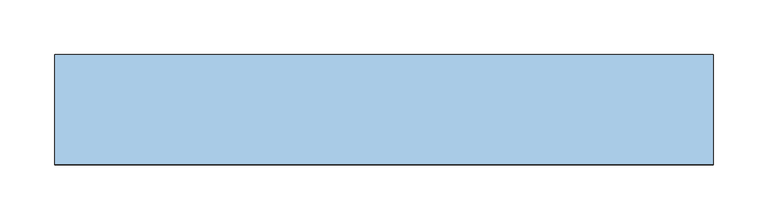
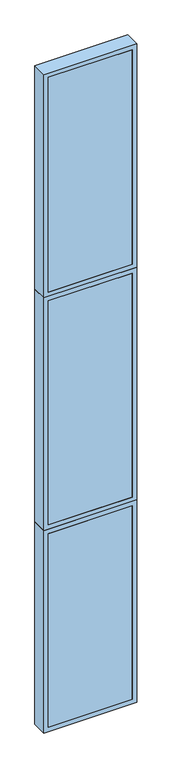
"""IFC4 building model written with IfcOpenShell, lengths in millimetres: window geometry, TRP_CP_ARC_FI_V1 : AL_P03_60."""

import ifcopenshell
import ifcopenshell.guid

model = None  # the IFC model being written
_history = None  # IfcOwnerHistory: only IFC2X3 demands one
_inside = {}  # id of a spatial element -> (the spatial element, [elements in it])
_under = {}  # id of a project, library or spatial element -> (it, [spatial elements below it])
_declared = {}  # id of a project -> (the project, [libraries it declares])
_typed = {}  # id of a type object -> (the type object, [elements of that type])
_made_of = {}  # id of a material, layer set ... -> (it, [elements and type objects made of it])


def new_model(schema):
    """Start an empty IFC model of exactly this schema.

    Asked for "IFC4X3", IfcOpenShell would pick the latest addendum, in which some entities
    have other attributes; the version numbers below select the first issue.
    IFC2X3 requires an IfcOwnerHistory on every rooted entity: one is made here for all.
    """
    global model, _history
    if schema == "IFC4X3":
        model = ifcopenshell.file(schema_version=(4, 3, 0, 0))
    else:
        model = ifcopenshell.file(schema=schema)
    _inside.clear()
    _under.clear()
    _declared.clear()
    _typed.clear()
    _made_of.clear()
    _history = None
    if model.schema == "IFC2X3":
        org = make("IfcOrganization", Name="unknown")
        user = make(
            "IfcPersonAndOrganization",
            ThePerson=make("IfcPerson", FamilyName="unknown"),
            TheOrganization=org,
        )
        app = make(
            "IfcApplication",
            ApplicationDeveloper=org,
            Version="unknown",
            ApplicationFullName="unknown",
            ApplicationIdentifier="unknown",
        )
        _history = make(
            "IfcOwnerHistory",
            OwningUser=user,
            OwningApplication=app,
            ChangeAction="ADDED",
            CreationDate=0,
        )
    return model


def make(cls, **values):
    """One entity of the class cls with the attributes given. An attribute that is None is left unset."""
    return model.create_entity(
        cls, **{name: value for name, value in values.items() if value is not None}
    )


def rooted(cls, **values):
    """An entity with a GlobalId (a new one), such as an element, a storey or a relation."""
    return make(cls, GlobalId=ifcopenshell.guid.new(), OwnerHistory=_history, **values)


def si_unit(unit_type, name, prefix=None):
    """IfcSIUnit, for example si_unit("LENGTHUNIT", "METRE", prefix="MILLI")."""
    return make("IfcSIUnit", UnitType=unit_type, Prefix=prefix, Name=name)


def assignment(units):
    """IfcUnitAssignment: the units of a project."""
    return None if units is None else make("IfcUnitAssignment", Units=units)


def point(xyz):
    """IfcCartesianPoint."""
    return None if xyz is None else make("IfcCartesianPoint", Coordinates=xyz)


def direction(xyz):
    """IfcDirection."""
    return None if xyz is None else make("IfcDirection", DirectionRatios=xyz)


def frame(location, z_axis=None, x_axis=None):
    """IfcAxis2Placement3D, a coordinate frame: its origin and axes. An axis left out is left unset."""
    return make(
        "IfcAxis2Placement3D",
        Location=point(location),
        Axis=direction(z_axis),
        RefDirection=direction(x_axis),
    )


def origin():
    """The frame at (0, 0, 0) with its axes left unset."""
    return frame((0.0, 0.0, 0.0))


def place(relative_to, where):
    """IfcLocalPlacement: puts the frame where relative to a parent placement (None: the world)."""
    return make(
        "IfcLocalPlacement", PlacementRelTo=relative_to, RelativePlacement=where
    )


def context(
    kind, dimensions, precision=None, world=None, true_north=None, identifier=None
):
    """IfcGeometricRepresentationContext, for example the 3D "Model" context."""
    return make(
        "IfcGeometricRepresentationContext",
        ContextIdentifier=identifier,
        ContextType=kind,
        CoordinateSpaceDimension=dimensions,
        Precision=precision,
        WorldCoordinateSystem=world,
        TrueNorth=true_north,
    )


def project(units=None, contexts=None):
    """IfcProject with its units and contexts."""
    return rooted(
        "IfcProject",
        Name="project",
        RepresentationContexts=contexts,
        UnitsInContext=assignment(units),
    )


def spatial(cls, under=None, at=None, **own):
    """A site, building, storey or space (cls), placed at a placement, below another one or the project."""
    s = rooted(cls, ObjectPlacement=at, **own)
    if under is not None:
        _under.setdefault(under.id(), (under, []))[1].append(s)
    return s


def polyline(points):
    """IfcPolyline through the points."""
    return make("IfcPolyline", Points=[point(p) for p in points])


def outline(outer, holes=None, kind="AREA"):
    """IfcArbitraryClosedProfileDef: a profile drawn as a closed curve; with holes, ...WithVoids."""
    if holes is None:
        return make("IfcArbitraryClosedProfileDef", ProfileType=kind, OuterCurve=outer)
    return make(
        "IfcArbitraryProfileDefWithVoids",
        ProfileType=kind,
        OuterCurve=outer,
        InnerCurves=holes,
    )


def extrude(swept, where, along, depth):
    """IfcExtrudedAreaSolid: the profile swept, set in the frame where, extruded along a direction by depth."""
    return make(
        "IfcExtrudedAreaSolid",
        SweptArea=swept,
        Position=where,
        ExtrudedDirection=direction(along),
        Depth=depth,
    )


def shape(context_of_items, identifier, shape_type, items):
    """IfcShapeRepresentation: the items that make up one representation, for example the "Body"."""
    return make(
        "IfcShapeRepresentation",
        ContextOfItems=context_of_items,
        RepresentationIdentifier=identifier,
        RepresentationType=shape_type,
        Items=items,
    )


def source(mapping_origin, context_of_items, identifier, shape_type, items):
    """IfcRepresentationMap: a shape defined once, which mapped items show again and again."""
    return make(
        "IfcRepresentationMap",
        MappingOrigin=mapping_origin,
        MappedRepresentation=shape(context_of_items, identifier, shape_type, items),
    )


def transform(
    local_origin,
    x_axis=None,
    y_axis=None,
    z_axis=None,
    scale=None,
    scale2=None,
    scale3=None,
    uniform=True,
):
    """IfcCartesianTransformationOperator3D, or its non-uniform kind. x_axis, y_axis, z_axis: its Axis1, 2, 3."""
    if uniform:
        return make(
            "IfcCartesianTransformationOperator3D",
            Axis1=direction(x_axis),
            Axis2=direction(y_axis),
            LocalOrigin=point(local_origin),
            Scale=scale,
            Axis3=direction(z_axis),
        )
    return make(
        "IfcCartesianTransformationOperator3DnonUniform",
        Axis1=direction(x_axis),
        Axis2=direction(y_axis),
        LocalOrigin=point(local_origin),
        Scale=scale,
        Axis3=direction(z_axis),
        Scale2=scale2,
        Scale3=scale3,
    )


def mapped(mapping_source, mapping_target):
    """IfcMappedItem: shows the shape of a source again, moved by a transform."""
    return make(
        "IfcMappedItem", MappingSource=mapping_source, MappingTarget=mapping_target
    )


def made_of(thing, what):
    """Note that an element or type object is made of a material, layer set ...; save() writes the relation."""
    if what is not None:
        _made_of.setdefault(what.id(), (what, []))[1].append(thing)
    return thing


def element(
    cls,
    number,
    at=None,
    inside=None,
    cuts=None,
    type_object=None,
    material=None,
    context=None,
    identifier="Body",
    shape_type=None,
    held_by="IfcProductDefinitionShape",
    body=None,
    shapes=None,
    **own,
):
    """One element of the class cls, such as IfcWall. Its Tag is "e" and its number.

    at: its placement. inside: the storey or other place that contains it. cuts: it is an
    opening in that element (IfcRelVoidsElement). A single representation is given by context,
    identifier, shape_type and body (its items); several are given by shapes. held_by: the class
    of the entity that holds the representations. save() writes the other relations.
    """
    e = rooted(cls, Tag="e%d" % number, ObjectPlacement=at, **own)
    if body is not None:
        shapes = [shape(context, identifier, shape_type, body)]
    if shapes is not None:
        e.Representation = make(held_by, Representations=shapes)
    if inside is not None:
        _inside.setdefault(inside.id(), (inside, []))[1].append(e)
    if cuts is not None:
        rooted(
            "IfcRelVoidsElement", RelatingBuildingElement=cuts, RelatedOpeningElement=e
        )
    if type_object is not None:
        _typed.setdefault(type_object.id(), (type_object, []))[1].append(e)
    return made_of(e, material)


def aggregate(whole, parts):
    """IfcRelAggregates: a whole, such as a stair, and the parts it consists of."""
    return rooted("IfcRelAggregates", RelatingObject=whole, RelatedObjects=parts)


def save(model, path):
    """Write the relations noted so far, then the file.

    IfcRelAggregates (storeys below a building ...), IfcRelContainedInSpatialStructure (elements
    in a storey), IfcRelDefinesByType, IfcRelAssociatesMaterial and IfcRelDeclares: one each for
    every whole, place, type object, material and project.
    """
    for whole, parts in _under.values():
        aggregate(whole, parts)
    for where, things in _inside.values():
        rooted(
            "IfcRelContainedInSpatialStructure",
            RelatedElements=things,
            RelatingStructure=where,
        )
    for kind, things in _typed.values():
        rooted("IfcRelDefinesByType", RelatedObjects=things, RelatingType=kind)
    for what, things in _made_of.values():
        rooted("IfcRelAssociatesMaterial", RelatedObjects=things, RelatingMaterial=what)
    for by, libraries in _declared.values():
        rooted("IfcRelDeclares", RelatingContext=by, RelatedDefinitions=libraries)
    model.write(path)


def window_5c8b0772(model_context):
    return source(origin(), model_context, "Body", "SweptSolid", [
        extrude(outline(polyline([(270.0, -50.0), (-270.0, -50.0), (-270.0, -30.0), (270.0, -30.0), (270.0, -50.0)])), frame((0.0, 0.0, 30.0), z_axis=(0.0, 0.0, 1.0), x_axis=(1.0, 0.0, 0.0)), (0.0, 0.0, 1.0), 1323.0),
        extrude(outline(polyline([(1383.0, 300.0), (1383.0, -300.0), (0.0, -300.0), (0.0, 300.0), (1383.0, 300.0)]), holes=[polyline([(30.0, 270.0), (30.0, -270.0), (1353.0, -270.0), (1353.0, 270.0), (30.0, 270.0)])]), frame((0.0, -50.0, 0.0), z_axis=(0.0, 1.0, 0.0), x_axis=(0.0, 0.0, 1.0)), (0.0, 0.0, 1.0), 100.0),
        extrude(outline(polyline([(2973.0, 300.0), (2973.0, -300.0), (1383.0, -300.0), (1383.0, 300.0), (2973.0, 300.0)]), holes=[polyline([(1413.0, 270.0), (1413.0, -270.0), (2943.0, -270.0), (2943.0, 270.0), (1413.0, 270.0)])]), frame((0.0, -50.0, 0.0), z_axis=(0.0, 1.0, 0.0), x_axis=(0.0, 0.0, 1.0)), (0.0, 0.0, 1.0), 100.0),
        extrude(outline(polyline([(270.0, -50.0), (-270.0, -50.0), (-270.0, -30.0), (270.0, -30.0), (270.0, -50.0)])), frame((0.0, 0.0, 1413.0), z_axis=(0.0, 0.0, 1.0), x_axis=(1.0, 0.0, 0.0)), (0.0, 0.0, 1.0), 1530.0),
        extrude(outline(polyline([(4500.0, 300.0), (4500.0, -300.0), (2973.0, -300.0), (2973.0, 300.0), (4500.0, 300.0)]), holes=[polyline([(3003.0, 270.0), (3003.0, -270.0), (4470.0, -270.0), (4470.0, 270.0), (3003.0, 270.0)])]), frame((0.0, -50.0, 0.0), z_axis=(0.0, 1.0, 0.0), x_axis=(0.0, 0.0, 1.0)), (0.0, 0.0, 1.0), 100.0),
        extrude(outline(polyline([(270.0, -50.0), (-270.0, -50.0), (-270.0, -30.0), (270.0, -30.0), (270.0, -50.0)])), frame((0.0, 0.0, 3003.0), z_axis=(0.0, 0.0, 1.0), x_axis=(1.0, 0.0, 0.0)), (0.0, 0.0, 1.0), 1467.0),
    ])


if __name__ == "__main__":
    model = new_model("IFC4")
    model_context = context("Model", 3, world=origin())
    ifc_project = project(units=[si_unit("LENGTHUNIT", "METRE", prefix="MILLI")], contexts=[model_context])
    site = spatial("IfcSite", under=ifc_project)
    building = spatial("IfcBuilding", under=site)
    placement = place(None, origin())
    window_shape = window_5c8b0772(model_context)
    element("IfcWindow", 1, ObjectType="TRP_CP_ARC_FI_V1 : AL_P03_60", at=placement, inside=building, context=model_context, shape_type="MappedRepresentation", body=[
        mapped(window_shape, transform((0.0, 0.0, 0.0), x_axis=(1.0, 0.0, 0.0), y_axis=(0.0, 1.0, 0.0), z_axis=(0.0, 0.0, 1.0))),
    ])
    save(model, "model.ifc")
